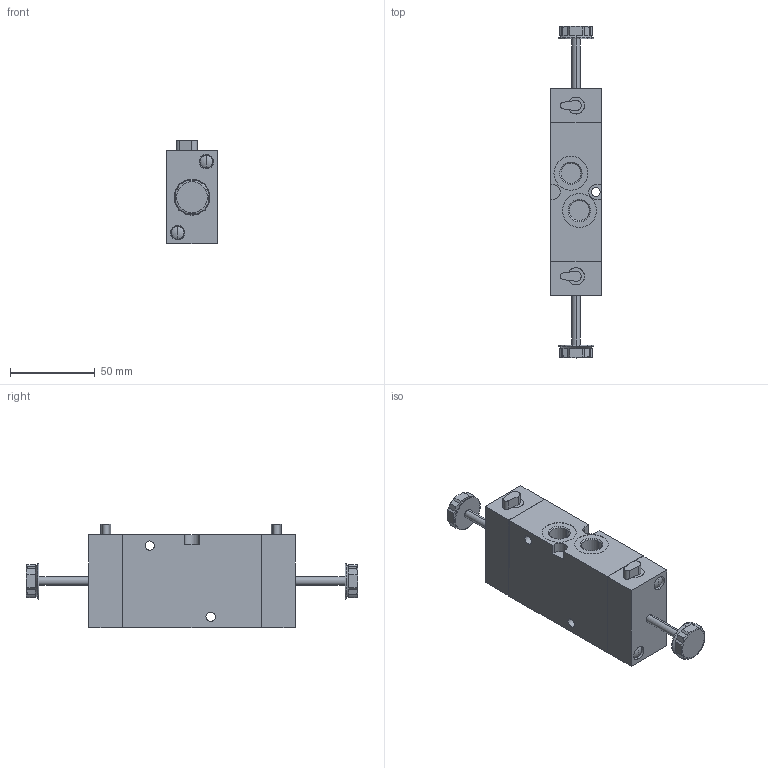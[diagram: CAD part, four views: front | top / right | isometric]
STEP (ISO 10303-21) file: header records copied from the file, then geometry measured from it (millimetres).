
FILE_DESCRIPTION((''),'2;1');
FILE_NAME('5776285302','2018-07-20T',('tng2hc'),(''),'CREO PARAMETRIC BY PTC INC, 2016260','CREO PARAMETRIC BY PTC INC, 2016260','');
FILE_SCHEMA(('CONFIG_CONTROL_DESIGN'));
Length unit declared in the file: millimetre
Products named in the file (1): 5776285302
Bounding box: 30 x 196 x 61.1 mm (x, y, z)
Volume: 195858.2 mm3; surface area: 33052.8 mm2
Topology: 1 solids, 1 shells, 198 faces, 474 edges, 302 vertices
Faces by surface type: plane 104, cylinder 52, cone 26, sphere 8, torus 8
Entity records: 6215 total; most frequent: CARTESIAN_POINT 1506, DIRECTION 988, ORIENTED_EDGE 932, EDGE_CURVE 466, AXIS2_PLACEMENT_3D 368, VERTEX_POINT 302, VECTOR 252, LINE 252
